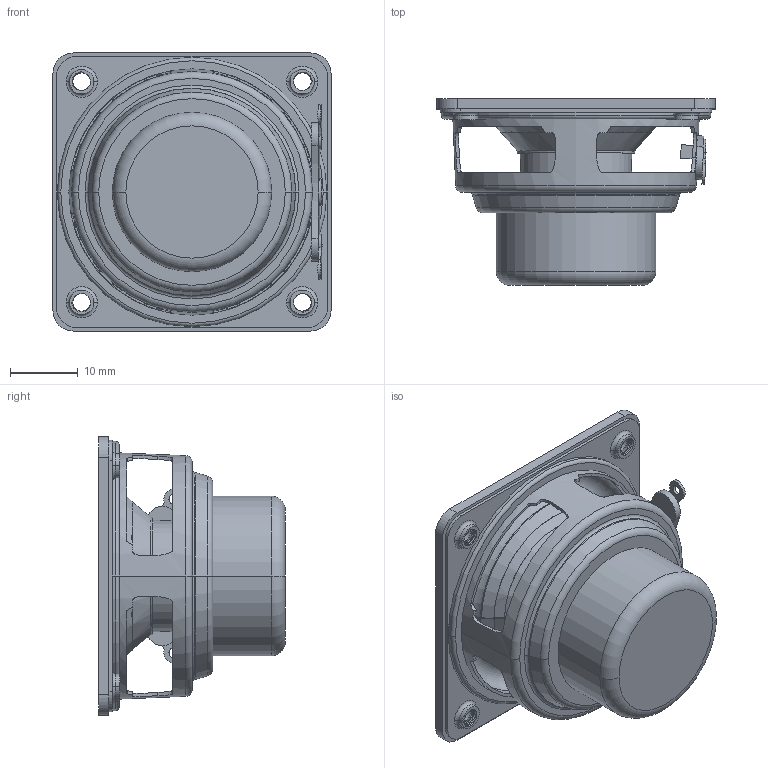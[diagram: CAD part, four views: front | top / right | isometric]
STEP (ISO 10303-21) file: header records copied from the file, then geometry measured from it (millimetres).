
FILE_DESCRIPTION((''),'2;1');
FILE_NAME('ST-8Q17_ASM','2023-09-23T09:35:14',('54257'),(''),'CREO PARAMETRIC BY PTC INC, 2020053','CREO PARAMETRIC BY PTC INC, 2020053','');
FILE_SCHEMA(('CONFIG_CONTROL_DESIGN','SHAPE_APPEARANCE_LAYERS_GROUPS'));
Length unit declared in the file: millimetre
Products named in the file (12): HF-8Q17; HP-8Q17; HM-8Q17; HP-28Q17; HM-18Q17; HC-8Q17; HA-8Q17; HD-8Q17; HV-8Q17; HG-18Q17; HT-8Q17; ST-8Q17_ASM
Assembly tree (11 placements, depth 2):
  ST-8Q17_ASM
    HF-8Q17
    HP-8Q17
    HM-8Q17
    HP-28Q17
    HM-18Q17
    HC-8Q17
    HA-8Q17
    HD-8Q17
    HV-8Q17
    HG-18Q17
    HT-8Q17
Bounding box: 41 x 27.5 x 41 mm (x, y, z)
Volume: 7216.3 mm3; surface area: 17215 mm2
Topology: 12 solids, 12 shells, 386 faces, 951 edges, 593 vertices
Faces by surface type: plane 116, cylinder 90, torus 68, cone 60, extrusion 32, bspline 16, sphere 4
Entity records: 19772 total; most frequent: CARTESIAN_POINT 5060, ORIENTED_EDGE 1894, DIRECTION 1889, PRESENTATION_STYLE_ASSIGNMENT 1313, STYLED_ITEM 1313, CURVE_STYLE 955, EDGE_CURVE 947, AXIS2_PLACEMENT_3D 767
